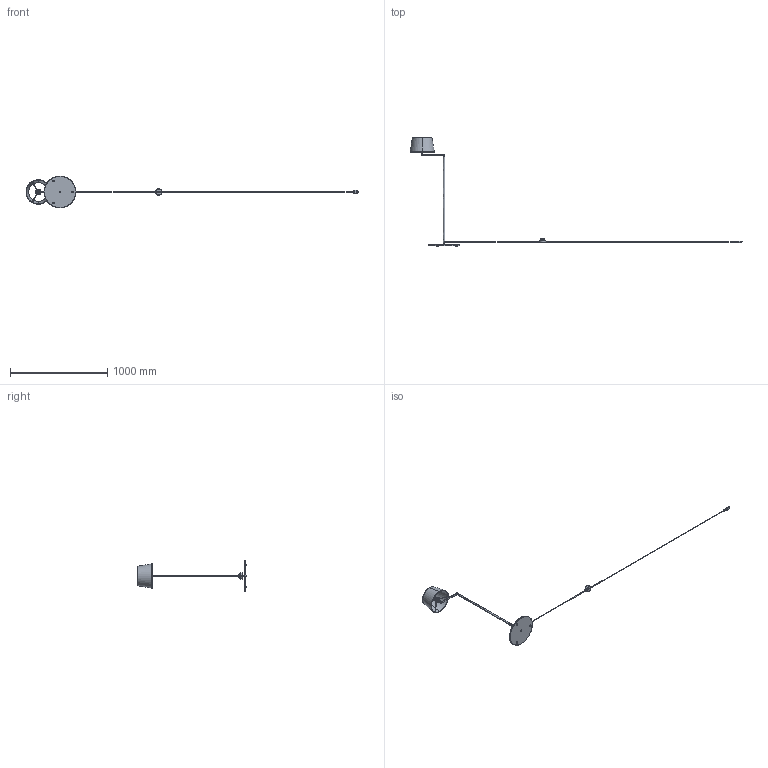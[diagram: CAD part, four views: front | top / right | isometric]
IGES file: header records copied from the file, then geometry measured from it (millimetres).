
Start section: SolidWorks IGES file using analytic representation for surfaces
Global section: file name: C:\Users\berta.gumma\OneDrive - santa &cole\Desktop\Americana pie UE.IGS; native system: SolidWorks 2021; preprocessor: SolidWorks 2021; author: berta.gumma; date: 230918.103228; units: millimetre
Bounding box: 3408 x 1116.45 x 325 mm (x, y, z)
Surface area: 801166 mm2 (no closed solid volume)
Topology: 0 solids, 0 shells, 828 faces, 11439 edges, 11432 vertices
Faces by surface type: revolution 454, bspline 374
